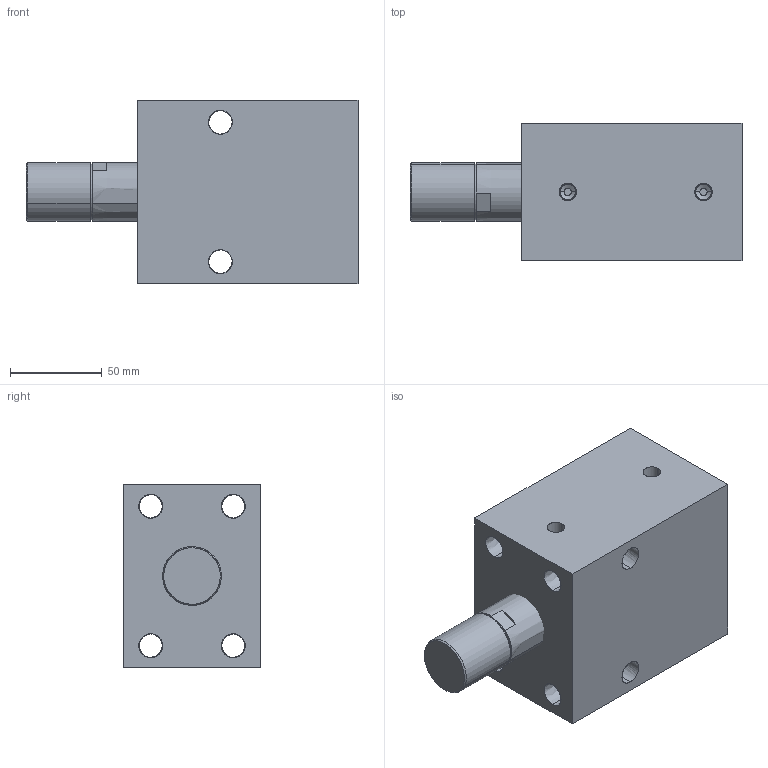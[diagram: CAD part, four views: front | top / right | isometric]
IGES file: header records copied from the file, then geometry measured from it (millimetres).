
Start section: SolidWorks IGES file using analytic representation for surfaces
Global section: file name: C:\Documents and Settings\rajib\Desktop\Rajib\BLOCK CYLINDER HYDRAULIC\0501-0506\IGS 0501-0508\0501.IGS; native system: SolidWorks 2007; preprocessor: SolidWorks 2007; author: rajib; date: 110121.103420; units: millimetre
Bounding box: 181 x 75 x 100 mm (x, y, z)
Surface area: 96200.7 mm2 (no closed solid volume)
Topology: 0 solids, 0 shells, 76 faces, 1824 edges, 1824 vertices
Faces by surface type: revolution 54, bspline 22
